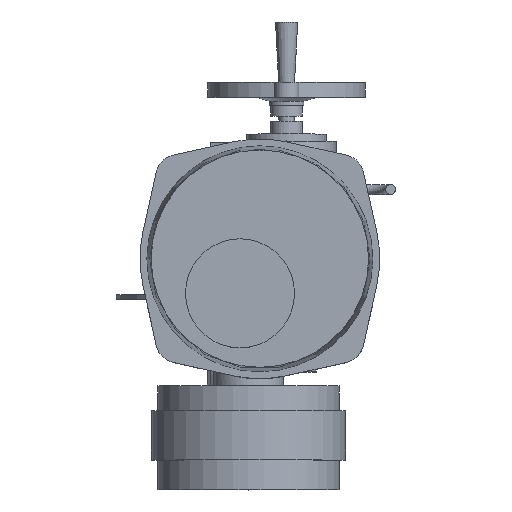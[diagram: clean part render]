
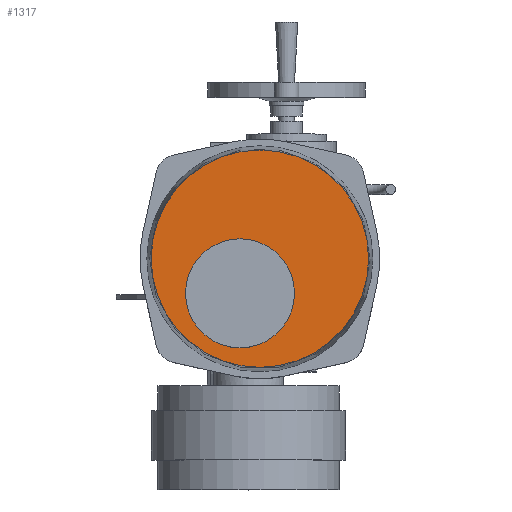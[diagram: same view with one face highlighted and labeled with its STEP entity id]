
A CAD part, top view. The second image highlights one B-rep face of the part: STEP entity #1317.
In plain terms, the highlighted planar face has unit normal (0, 0, 1).
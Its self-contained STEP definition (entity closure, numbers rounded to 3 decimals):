
#1317=ADVANCED_FACE('',(#2839,#2841),#2843,.T.);
#2839=FACE_BOUND('',#2840,.T.);
#2840=EDGE_LOOP('',(#3831));
#2841=FACE_BOUND('',#2842,.T.);
#2842=EDGE_LOOP('',(#3832));
#2843=PLANE('',#2844);
#2844=AXIS2_PLACEMENT_3D('',#2845,#2846,#2847);
#2845=CARTESIAN_POINT('',(20.,38.,551.));
#2846=DIRECTION('',(0.,0.,1.));
#2847=DIRECTION('',(-1.,0.,0.));
#3831=ORIENTED_EDGE('',*,*,#4310,.T.);
#3832=ORIENTED_EDGE('',*,*,#4315,.F.);
#4310=EDGE_CURVE('',#4927,#4927,#4928,.T.);
#4315=EDGE_CURVE('',#4937,#4937,#4938,.T.);
#4927=VERTEX_POINT('',#7900);
#4928=CIRCLE('',#7901,109.703);
#4937=VERTEX_POINT('',#7925);
#4938=CIRCLE('',#7926,55.);
#7900=CARTESIAN_POINT('',(-89.703,38.,551.));
#7901=AXIS2_PLACEMENT_3D('',#7902,#7903,#7904);
#7902=CARTESIAN_POINT('',(20.,38.,551.));
#7903=DIRECTION('',(0.,0.,1.));
#7904=DIRECTION('',(-1.,0.,0.));
#7925=CARTESIAN_POINT('',(-55.,3.,551.));
#7926=AXIS2_PLACEMENT_3D('',#7927,#7928,#7929);
#7927=CARTESIAN_POINT('',(0.,3.,551.));
#7928=DIRECTION('',(0.,0.,1.));
#7929=DIRECTION('',(-1.,0.,0.));
